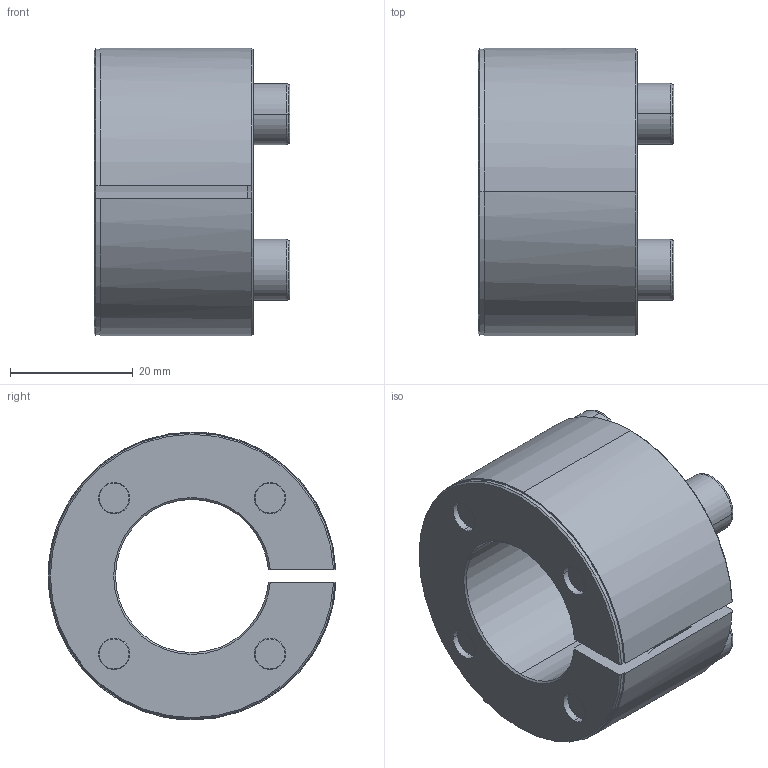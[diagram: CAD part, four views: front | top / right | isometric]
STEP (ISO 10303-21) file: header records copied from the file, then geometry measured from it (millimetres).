
FILE_DESCRIPTION (( 'STEP AP214' ), '1' );
FILE_NAME ('SAPL-E-25-47.STEP', '2024-07-12T02:15:16', ( '决扁浅何厘' ), ( '' ), 'SwSTEP 2.0', 'SolidWorks 2024', '' );
FILE_SCHEMA (( 'AUTOMOTIVE_DESIGN' ));
Length unit declared in the file: millimetre
Products named in the file (1): SAPL-E-25-47
Bounding box: 31.99 x 46.98 x 47 mm (x, y, z)
Volume: 25297.8 mm3; surface area: 15587.4 mm2
Topology: 1 solids, 1 shells, 187 faces, 437 edges, 256 vertices
Faces by surface type: plane 64, cylinder 48, cone 43, torus 32
Entity records: 5396 total; most frequent: CARTESIAN_POINT 1015, DIRECTION 992, ORIENTED_EDGE 858, EDGE_CURVE 429, AXIS2_PLACEMENT_3D 402, VERTEX_POINT 256, CIRCLE 214, EDGE_LOOP 213
